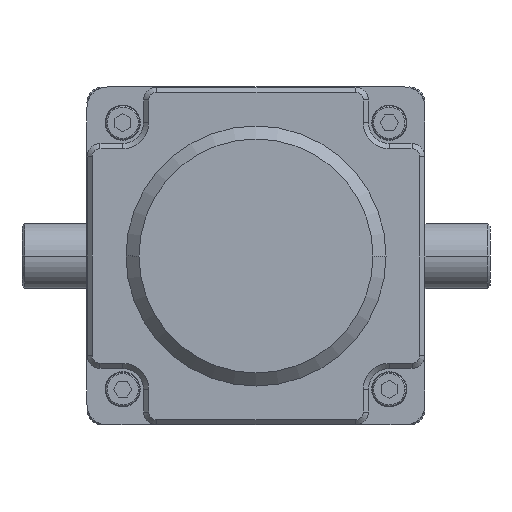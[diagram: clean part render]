
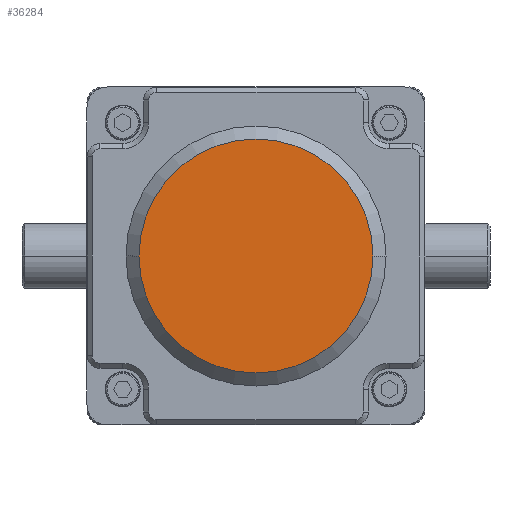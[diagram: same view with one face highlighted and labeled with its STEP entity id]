
A CAD part, front view. The second image highlights one B-rep face of the part: STEP entity #36284.
In plain terms, the highlighted planar face has unit normal (0, -1, 0) as drawn and (0, 1, 0) by its records, which use the part's own axes.
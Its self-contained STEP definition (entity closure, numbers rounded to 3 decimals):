
#34362=CARTESIAN_POINT('',(0.,166.,0.));
#34363=DIRECTION('',(0.,1.,0.));
#34364=DIRECTION('',(-1.,0.,0.));
#34365=AXIS2_PLACEMENT_3D('',#34362,#34363,#34364);
#34367=CARTESIAN_POINT('',(0.,166.,0.));
#34368=DIRECTION('',(0.,1.,0.));
#34369=DIRECTION('',(1.,0.,0.));
#34370=AXIS2_PLACEMENT_3D('',#34367,#34368,#34369);
#35229=CARTESIAN_POINT('',(-45.,166.,0.));
#35230=CARTESIAN_POINT('',(45.,166.,0.));
#35231=VERTEX_POINT('',#35229);
#35232=VERTEX_POINT('',#35230);
#36274=CARTESIAN_POINT('',(0.,166.,0.));
#36275=DIRECTION('',(0.,1.,0.));
#36276=DIRECTION('',(1.,0.,0.));
#36277=AXIS2_PLACEMENT_3D('',#36274,#36275,#36276);
#36278=PLANE('',#36277);
#36280=ORIENTED_EDGE('',*,*,#36279,.F.);
#36281=ORIENTED_EDGE('',*,*,#36264,.F.);
#36282=EDGE_LOOP('',(#36280,#36281));
#36283=FACE_OUTER_BOUND('',#36282,.F.);
#36284=ADVANCED_FACE('',(#36283),#36278,.T.);
#34366=CIRCLE('',#34365,45.);
#34371=CIRCLE('',#34370,45.);
#36264=EDGE_CURVE('',#35232,#35231,#34371,.T.);
#36279=EDGE_CURVE('',#35231,#35232,#34366,.T.);
